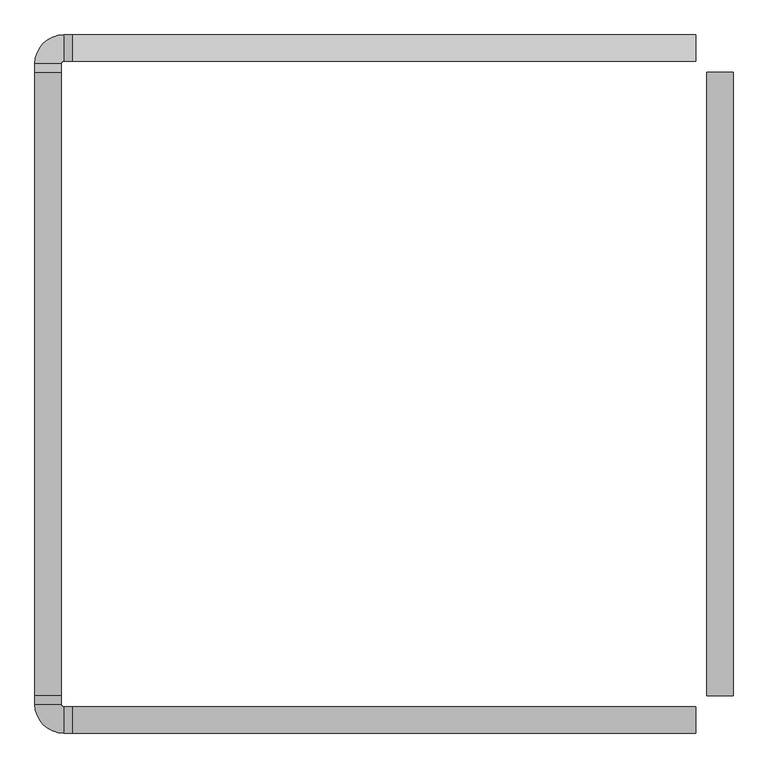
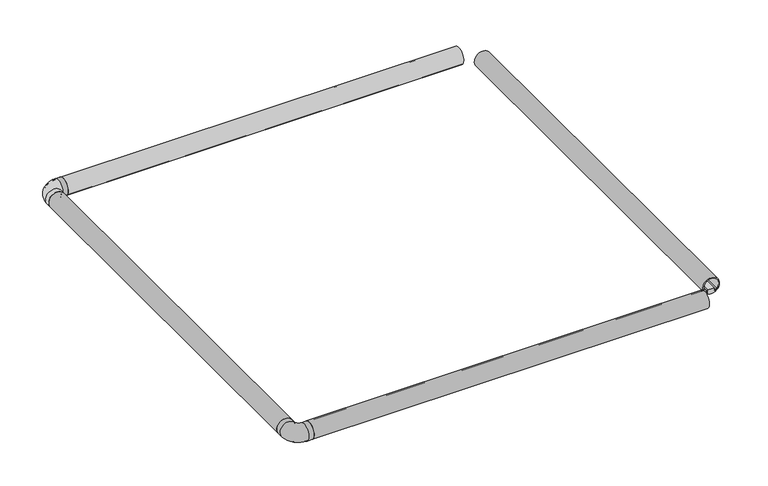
"""IFC4 building model written with IfcOpenShell, lengths in millimetres: light fixture geometry."""

from ifc_helpers import new_model, si_unit, point, frame, frame_2d, origin, place, context, project, spatial, polyline, circle_curve, ellipse_curve, trimmed, segment, composite_curve, outline, extrude, source, transform, mapped, element, save
from ifc_brep_helpers import plane_surface, cylinder_surface, revolved_surface, advanced_brep


def light_fixture_1890d13e(model_context):
    return source(origin(), model_context, "Body", "SolidModel", [
        advanced_brep(
        [(36.75, -69.5, 52.9333396), (36.75, -69.5, 57.259212), (38.667754, -69.5, 57.259212), (38.667754, -69.5, 55.8288843), (40.617754, -69.5, 57.2440748), (40.617754, -69.5, 59.244074), (37.667754, -69.5, 59.244074), (37.667754, -69.5, 60.744074), (42.2779794, -69.5, 60.744074), (7.7220206, -69.5, 60.744074), (12.332246, -69.5, 60.744074), (12.332246, -69.5, 59.244074), (9.382246, -69.5, 59.244074), (9.382246, -69.5, 57.2440748), (11.332246, -69.5, 55.8288843), (11.332246, -69.5, 57.259212), (13.25, -69.5, 57.259212), (13.25, -69.5, 52.9333396), (70.5, -103.25, 52.9333396), (70.5, -126.75, 52.9333396), (70.5, -126.75, 57.259212), (70.5, -128.667754, 57.259212), (70.5, -128.667754, 55.8288843), (70.5, -130.617754, 57.2440748), (70.5, -130.617754, 59.244074), (70.5, -127.667754, 59.244074), (70.5, -127.667754, 60.744074), (70.5, -132.2779794, 60.744074), (70.5, -97.7220206, 60.744074), (70.5, -102.332246, 60.744074), (70.5, -102.332246, 59.244074), (70.5, -99.382246, 59.244074), (70.5, -99.382246, 57.2440748), (70.5, -101.332246, 55.8288843), (70.5, -101.332246, 57.259212), (70.5, -103.25, 57.259212), (13.25, -85.0, 52.9333396), (36.75, -85.0, 52.9333396), (13.25, -85.0, 57.259212), (11.332246, -85.0, 57.259212), (55.0, -128.667754, 57.259212), (55.0, -126.75, 57.259212), (11.332246, -85.0, 55.8288843), (9.382246, -85.0, 57.2440748), (9.382246, -85.0, 59.244074), (12.332246, -85.0, 59.244074), (55.0, -127.667754, 59.244074), (55.0, -130.617754, 59.244074), (12.332246, -85.0, 60.744074), (7.7220206, -85.0, 60.744074), (55.0, -132.2779794, 60.744074), (55.0, -127.667754, 60.744074), (42.2779794, -85.0, 60.744074), (37.667754, -85.0, 60.744074), (55.0, -102.332246, 60.744074), (55.0, -97.7220206, 60.744074), (37.667754, -85.0, 59.244074), (40.617754, -85.0, 59.244074), (55.0, -99.382246, 59.244074), (55.0, -102.332246, 59.244074), (40.617754, -85.0, 57.2440748), (38.667754, -85.0, 55.8288843), (38.667754, -85.0, 57.259212), (36.75, -85.0, 57.259212), (55.0, -103.25, 57.259212), (55.0, -101.332246, 57.259212), (55.0, -103.25, 52.9333396), (55.0, -126.75, 52.9333396), (55.0, -128.667754, 55.8288843), (55.0, -130.617754, 57.2440748), (55.0, -99.382246, 57.2440748), (55.0, -101.332246, 55.8288843)],
        [
            (0, 1),
            (1, 2),
            (2, 3),
            (3, 4),
            (4, 5),
            (5, 6),
            (6, 7),
            (7, 8),
            (8, 9, circle_curve(frame((25.0, -69.5, 75.0), z_axis=(0.0, -1.0, 0.0), x_axis=(1.0, 0.0, 0.0)), 22.4)),
            (9, 10),
            (10, 11),
            (11, 12),
            (12, 13),
            (13, 14),
            (14, 15),
            (15, 16),
            (16, 17),
            (17, 0, circle_curve(frame((25.0, -69.5, 75.0), z_axis=(0.0, 1.0, 0.0), x_axis=(1.0, 0.0, 0.0)), 25.0)),
            (18, 19, circle_curve(frame((70.5, -115.0, 75.0), z_axis=(1.0, 0.0, 0.0), x_axis=(0.0, 1.0, 0.0)), 25.0)),
            (19, 20),
            (20, 21),
            (21, 22),
            (22, 23),
            (23, 24),
            (24, 25),
            (25, 26),
            (26, 27),
            (27, 28, circle_curve(frame((70.5, -115.0, 75.0), z_axis=(-1.0, 0.0, 0.0), x_axis=(0.0, 1.0, 0.0)), 22.4)),
            (28, 29),
            (29, 30),
            (30, 31),
            (31, 32),
            (32, 33),
            (33, 34),
            (34, 35),
            (35, 18),
            (17, 36),
            (36, 37, circle_curve(frame((25.0, -85.0, 75.0), z_axis=(0.0, 1.0, 0.0), x_axis=(1.0, 0.0, 0.0)), 25.0)),
            (37, 0),
            (16, 38),
            (38, 36),
            (15, 39),
            (39, 40, circle_curve(frame((55.0, -85.0, 57.259212), z_axis=(0.0, 0.0, 1.0), x_axis=(-1.0, 0.0, 0.0)), 43.667754)),
            (40, 21),
            (20, 41),
            (41, 38, circle_curve(frame((55.0, -85.0, 57.259212), z_axis=(0.0, 0.0, -1.0), x_axis=(-1.0, 0.0, 0.0)), 41.75)),
            (14, 42),
            (42, 39),
            (13, 43),
            (43, 42),
            (12, 44),
            (44, 43),
            (11, 45),
            (45, 46, circle_curve(frame((55.0, -85.0, 59.244074), z_axis=(0.0, 0.0, 1.0), x_axis=(-1.0, 0.0, 0.0)), 42.667754)),
            (46, 25),
            (24, 47),
            (47, 44, circle_curve(frame((55.0, -85.0, 59.244074), z_axis=(0.0, 0.0, -1.0), x_axis=(-1.0, 0.0, 0.0)), 45.617754)),
            (10, 48),
            (48, 45),
            (9, 49),
            (49, 50, circle_curve(frame((55.0, -85.0, 60.744074), z_axis=(0.0, 0.0, 1.0), x_axis=(-1.0, 0.0, 0.0)), 47.2779794)),
            (50, 27),
            (26, 51),
            (51, 48, circle_curve(frame((55.0, -85.0, 60.744074), z_axis=(0.0, 0.0, -1.0), x_axis=(-1.0, 0.0, 0.0)), 42.667754)),
            (8, 52),
            (52, 49, circle_curve(frame((25.0, -85.0, 75.0), z_axis=(0.0, -1.0, 0.0), x_axis=(1.0, 0.0, 0.0)), 22.4)),
            (7, 53),
            (53, 54, circle_curve(frame((55.0, -85.0, 60.744074), z_axis=(0.0, 0.0, 1.0), x_axis=(-1.0, 0.0, 0.0)), 17.332246)),
            (54, 29),
            (28, 55),
            (55, 52, circle_curve(frame((55.0, -85.0, 60.744074), z_axis=(0.0, 0.0, -1.0), x_axis=(-1.0, 0.0, 0.0)), 12.7220206)),
            (6, 56),
            (56, 53),
            (5, 57),
            (57, 58, circle_curve(frame((55.0, -85.0, 59.244074), z_axis=(0.0, 0.0, 1.0), x_axis=(-1.0, 0.0, 0.0)), 14.382246)),
            (58, 31),
            (30, 59),
            (59, 56, circle_curve(frame((55.0, -85.0, 59.244074), z_axis=(0.0, 0.0, -1.0), x_axis=(-1.0, 0.0, 0.0)), 17.332246)),
            (4, 60),
            (60, 57),
            (3, 61),
            (61, 60),
            (2, 62),
            (62, 61),
            (1, 63),
            (63, 64, circle_curve(frame((55.0, -85.0, 57.259212), z_axis=(0.0, 0.0, 1.0), x_axis=(-1.0, 0.0, 0.0)), 18.25)),
            (64, 35),
            (34, 65),
            (65, 62, circle_curve(frame((55.0, -85.0, 57.259212), z_axis=(0.0, 0.0, -1.0), x_axis=(-1.0, 0.0, 0.0)), 16.332246)),
            (37, 63),
            (66, 37, circle_curve(frame((55.0, -85.0, 52.9333396), z_axis=(0.0, 0.0, -1.0), x_axis=(-1.0, 0.0, 0.0)), 18.25)),
            (36, 67, circle_curve(frame((55.0, -85.0, 52.9333396), z_axis=(0.0, 0.0, 1.0), x_axis=(-1.0, 0.0, 0.0)), 41.75)),
            (67, 66, circle_curve(frame((55.0, -115.0, 75.0), z_axis=(-1.0, 0.0, 0.0), x_axis=(0.0, 1.0, 0.0)), 25.0)),
            (41, 67),
            (42, 68, circle_curve(frame((55.0, -85.0, 55.8288843), z_axis=(0.0, 0.0, 1.0), x_axis=(-1.0, 0.0, 0.0)), 43.667754)),
            (68, 40),
            (43, 69, circle_curve(frame((55.0, -85.0, 57.2440748), z_axis=(0.0, 0.0, 1.0), x_axis=(-1.0, 0.0, 0.0)), 45.617754)),
            (69, 68),
            (47, 69),
            (51, 46),
            (55, 50, circle_curve(frame((55.0, -115.0, 75.0), z_axis=(1.0, 0.0, 0.0), x_axis=(0.0, 1.0, 0.0)), 22.4)),
            (59, 54),
            (60, 70, circle_curve(frame((55.0, -85.0, 57.2440748), z_axis=(0.0, 0.0, 1.0), x_axis=(-1.0, 0.0, 0.0)), 14.382246)),
            (70, 58),
            (61, 71, circle_curve(frame((55.0, -85.0, 55.8288843), z_axis=(0.0, 0.0, 1.0), x_axis=(-1.0, 0.0, 0.0)), 16.332246)),
            (71, 70),
            (65, 71),
            (66, 64),
            (67, 19),
            (18, 66),
            (68, 22),
            (69, 23),
            (70, 32),
            (71, 33),
        ],
        [
            plane_surface(frame((25.0, -69.5, 50.0), z_axis=(0.0, 1.0, 0.0), x_axis=(0.0, 0.0, 1.0))),
            plane_surface(frame((70.5, -115.0, 50.0), z_axis=(1.0, 0.0, 0.0), x_axis=(0.0, 0.0, 1.0))),
            cylinder_surface(frame((25.0, -69.5, 75.0), z_axis=(0.0, 1.0, 0.0), x_axis=(1.0, 0.0, 0.0)), 25.0),
            plane_surface(frame((13.25, -69.5, 57.259212), z_axis=(1.0, 0.0, 0.0), x_axis=(0.0, -1.0, 0.0))),
            plane_surface(frame((11.332246, -69.5, 57.259212), z_axis=(0.0, 0.0, 1.0), x_axis=(0.0, -1.0, 0.0))),
            plane_surface(frame((11.332246, -69.5, 55.8288843), z_axis=(-1.0, 0.0, 0.0), x_axis=(0.0, -1.0, 0.0))),
            plane_surface(frame((9.382246, -69.5, 57.2440748), z_axis=(0.5873593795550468, 0.0, 0.8093262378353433), x_axis=(0.0, -1.0, 0.0))),
            plane_surface(frame((9.382246, -69.5, 59.244074), z_axis=(1.0, 0.0, 0.0), x_axis=(0.0, -1.0, 0.0))),
            plane_surface(frame((12.332246, -69.5, 59.244074), z_axis=(0.0, 0.0, -1.0), x_axis=(0.0, -1.0, 0.0))),
            plane_surface(frame((12.332246, -69.5, 60.744074), z_axis=(1.0, 0.0, 0.0), x_axis=(0.0, -1.0, 0.0))),
            plane_surface(frame((7.7220206, -69.5, 60.744074), z_axis=(0.0, 0.0, 1.0), x_axis=(0.0, -1.0, 0.0))),
            revolved_surface(polyline([(47.4, -85.0, 75.0), (47.4, -69.5, 75.0)]), (25.0, -69.5, 75.0), (0.0, -1.0, 0.0)),
            plane_surface(frame((37.667754, -69.5, 60.744074), z_axis=(0.0, 0.0, 1.0), x_axis=(0.0, -1.0, 0.0))),
            plane_surface(frame((37.667754, -69.5, 59.244074), z_axis=(-1.0, 0.0, 0.0), x_axis=(0.0, -1.0, 0.0))),
            plane_surface(frame((40.617754, -69.5, 59.244074), z_axis=(0.0, 0.0, -1.0), x_axis=(0.0, -1.0, 0.0))),
            plane_surface(frame((40.617754, -69.5, 57.2440748), z_axis=(-1.0, 0.0, 0.0), x_axis=(0.0, -1.0, 0.0))),
            plane_surface(frame((38.667754, -69.5, 55.8288843), z_axis=(-0.5873593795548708, 0.0, 0.8093262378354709), x_axis=(0.0, -1.0, 0.0))),
            plane_surface(frame((38.667754, -69.5, 57.259212), z_axis=(1.0, 0.0, 0.0), x_axis=(0.0, -1.0, 0.0))),
            plane_surface(frame((36.75, -69.5, 57.259212), z_axis=(0.0, 0.0, 1.0), x_axis=(0.0, -1.0, 0.0))),
            plane_surface(frame((36.75, -69.5, 52.9333396), z_axis=(-1.0, 0.0, 0.0), x_axis=(0.0, -1.0, 0.0))),
            revolved_surface(trimmed(ellipse_curve(frame((25.0, -85.0, 75.0), z_axis=(0.0, 1.0, 0.0), x_axis=(1.0, 0.0, 0.0)), 25.0, 25.0), [point((13.25, -85.0, 52.9333396))], [point((36.75, -85.0, 52.9333396))], True, "CARTESIAN"), (55.0, -85.0, 50.0), (0.0, 0.0, 1.0)),
            revolved_surface(polyline([(13.25, -85.0, 57.259212), (13.25, -85.0, 52.9333396)]), (55.0, -85.0, 50.0), (0.0, 0.0, 1.0)),
            cylinder_surface(frame((55.0, -85.0, 50.0), z_axis=(0.0, 0.0, 1.0), x_axis=(-1.0, 0.0, 0.0)), 43.667754),
            revolved_surface(polyline([(9.382246, -85.0, 57.2440748), (11.332246, -85.0, 55.8288843)]), (55.0, -85.0, 50.0), (0.0, 0.0, 1.0)),
            revolved_surface(polyline([(9.382246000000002, -85.0, 59.244074), (9.382246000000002, -85.0, 57.2440748)]), (55.0, -85.0, 50.0), (0.0, 0.0, 1.0)),
            revolved_surface(polyline([(12.332245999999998, -85.0, 60.744074), (12.332245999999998, -85.0, 59.244074)]), (55.0, -85.0, 50.0), (0.0, 0.0, 1.0)),
            revolved_surface(trimmed(ellipse_curve(frame((25.0, -85.0, 75.0), z_axis=(0.0, -1.0, 0.0), x_axis=(1.0, 0.0, 0.0)), 22.4, 22.4), [point((42.2779794, -85.0, 60.744074))], [point((7.7220206, -85.0, 60.744074))], True, "CARTESIAN"), (55.0, -85.0, 50.0), (0.0, 0.0, 1.0)),
            cylinder_surface(frame((55.0, -85.0, 50.0), z_axis=(0.0, 0.0, 1.0), x_axis=(-1.0, 0.0, 0.0)), 17.332246),
            cylinder_surface(frame((55.0, -85.0, 50.0), z_axis=(0.0, 0.0, 1.0), x_axis=(-1.0, 0.0, 0.0)), 14.382246),
            revolved_surface(polyline([(38.667754, -85.0, 55.8288843), (40.617754, -85.0, 57.2440748)]), (55.0, -85.0, 50.0), (0.0, 0.0, 1.0)),
            revolved_surface(polyline([(38.667754, -85.0, 57.259212), (38.667754, -85.0, 55.8288843)]), (55.0, -85.0, 50.0), (0.0, 0.0, 1.0)),
            cylinder_surface(frame((55.0, -85.0, 50.0), z_axis=(0.0, 0.0, 1.0), x_axis=(-1.0, 0.0, 0.0)), 18.25),
            cylinder_surface(frame((55.0, -115.0, 75.0), z_axis=(-1.0, 0.0, 0.0), x_axis=(0.0, 1.0, 0.0)), 25.0),
            plane_surface(frame((55.0, -126.75, 57.259212), z_axis=(0.0, 1.0, 0.0), x_axis=(1.0, 0.0, 0.0))),
            plane_surface(frame((55.0, -128.667754, 55.8288843), z_axis=(0.0, -1.0, 0.0), x_axis=(1.0, 0.0, 0.0))),
            plane_surface(frame((55.0, -130.617754, 57.2440748), z_axis=(0.0, 0.5873593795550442, 0.8093262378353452), x_axis=(1.0, 0.0, 0.0))),
            plane_surface(frame((55.0, -130.617754, 59.244074), z_axis=(0.0, 1.0, 0.0), x_axis=(1.0, 0.0, 0.0))),
            plane_surface(frame((55.0, -127.667754, 60.744074), z_axis=(0.0, 1.0, 0.0), x_axis=(1.0, 0.0, 0.0))),
            revolved_surface(polyline([(70.5, -92.6, 75.0), (55.0, -92.6, 75.0)]), (55.0, -115.0, 75.0), (1.0, 0.0, 0.0)),
            plane_surface(frame((55.0, -102.332246, 59.244074), z_axis=(0.0, -1.0, 0.0), x_axis=(1.0, 0.0, 0.0))),
            plane_surface(frame((55.0, -99.382246, 57.2440748), z_axis=(0.0, -1.0, 0.0), x_axis=(1.0, 0.0, 0.0))),
            plane_surface(frame((55.0, -101.332246, 55.8288843), z_axis=(0.0, -0.5873593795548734, 0.809326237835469), x_axis=(1.0, 0.0, 0.0))),
            plane_surface(frame((55.0, -101.332246, 57.259212), z_axis=(0.0, 1.0, 0.0), x_axis=(1.0, 0.0, 0.0))),
            plane_surface(frame((55.0, -103.25, 52.9333396), z_axis=(0.0, -1.0, 0.0), x_axis=(1.0, 0.0, 0.0))),
        ],
        [
            (0, [[1, 2, 3, 4, 5, 6, 7, 8, 9, 10, 11, 12, 13, 14, 15, 16, 17, 18]]),
            (1, [[19, 20, 21, 22, 23, 24, 25, 26, 27, 28, 29, 30, 31, 32, 33, 34, 35, 36]]),
            (2, [[-18, 37, 38, 39]]),
            (3, [[-17, 40, 41, -37]]),
            (4, [[-16, 42, 43, 44, -21, 45, 46, -40]]),
            (5, [[-15, 47, 48, -42]]),
            (6, [[-14, 49, 50, -47]]),
            (7, [[-13, 51, 52, -49]]),
            (8, [[-12, 53, 54, 55, -25, 56, 57, -51]]),
            (9, [[-11, 58, 59, -53]]),
            (10, [[-10, 60, 61, 62, -27, 63, 64, -58]]),
            (11, [[-9, 65, 66, -60]]),
            (12, [[-8, 67, 68, 69, -29, 70, 71, -65]]),
            (13, [[-7, 72, 73, -67]]),
            (14, [[-6, 74, 75, 76, -31, 77, 78, -72]]),
            (15, [[-5, 79, 80, -74]]),
            (16, [[-4, 81, 82, -79]]),
            (17, [[-3, 83, 84, -81]]),
            (18, [[-2, 85, 86, 87, -35, 88, 89, -83]]),
            (19, [[-1, -39, 90, -85]]),
            (20, [[91, -38, 92, 93]]),
            (21, [[-92, -41, -46, 94]]),
            (22, [[-43, -48, 95, 96]]),
            (23, [[-95, -50, 97, 98]]),
            (24, [[-97, -52, -57, 99]]),
            (25, [[-54, -59, -64, 100]]),
            (26, [[-61, -66, -71, 101]]),
            (27, [[-68, -73, -78, 102]]),
            (28, [[-75, -80, 103, 104]]),
            (29, [[-103, -82, 105, 106]]),
            (30, [[-105, -84, -89, 107]]),
            (31, [[-86, -90, -91, 108]]),
            (32, [[-93, 109, -19, 110]]),
            (33, [[-94, -45, -20, -109]]),
            (34, [[-96, 111, -22, -44]]),
            (35, [[-98, 112, -23, -111]]),
            (36, [[-99, -56, -24, -112]]),
            (37, [[-100, -63, -26, -55]]),
            (38, [[-101, -70, -28, -62]]),
            (39, [[-102, -77, -30, -69]]),
            (40, [[-104, 113, -32, -76]]),
            (41, [[-106, 114, -33, -113]]),
            (42, [[-107, -88, -34, -114]]),
            (43, [[-108, -110, -36, -87]]),
        ],
    ),
        advanced_brep(
        [(13.25, 1110.5, 52.9333396), (36.75, 1110.5, 52.9333396), (36.75, 1110.5, 57.259212), (40.304087, 1110.5, 57.259212), (40.304087, 1110.5, 58.785971), (34.5062575, 1110.5, 58.785971), (34.5062575, 1110.5, 64.4273482), (15.4937425, 1110.5, 64.4273482), (15.4937425, 1110.5, 58.785971), (9.695913, 1110.5, 58.785971), (9.695913, 1110.5, 57.259212), (13.25, 1110.5, 57.259212), (70.5, 1167.75, 52.9333396), (70.5, 1167.75, 57.259212), (70.5, 1171.304087, 57.259212), (70.5, 1171.304087, 58.785971), (70.5, 1165.5062575, 58.785971), (70.5, 1165.5062575, 64.4273482), (70.5, 1146.4937425, 64.4273482), (70.5, 1146.4937425, 58.785971), (70.5, 1140.695913, 58.785971), (70.5, 1140.695913, 57.259212), (70.5, 1144.25, 57.259212), (70.5, 1144.25, 52.9333396), (13.25, 1126.0, 52.9333396), (36.75, 1126.0, 52.9333396), (36.75, 1126.0, 57.259212), (55.0, 1144.25, 57.259212), (55.0, 1140.695913, 57.259212), (40.304087, 1126.0, 57.259212), (40.304087, 1126.0, 58.785971), (55.0, 1140.695913, 58.785971), (55.0, 1146.4937425, 58.785971), (34.5062575, 1126.0, 58.785971), (34.5062575, 1126.0, 64.4273482), (55.0, 1146.4937425, 64.4273482), (55.0, 1165.5062575, 64.4273482), (15.4937425, 1126.0, 64.4273482), (15.4937425, 1126.0, 58.785971), (55.0, 1165.5062575, 58.785971), (55.0, 1171.304087, 58.785971), (9.695913, 1126.0, 58.785971), (9.695913, 1126.0, 57.259212), (55.0, 1171.304087, 57.259212), (55.0, 1167.75, 57.259212), (13.25, 1126.0, 57.259212), (55.0, 1144.25, 52.9333396), (55.0, 1167.75, 52.9333396)],
        [
            (0, 1, circle_curve(frame((25.0, 1110.5, 75.0), z_axis=(0.0, -1.0, 0.0), x_axis=(-1.0, 0.0, 0.0)), 25.0)),
            (1, 2),
            (2, 3),
            (3, 4),
            (4, 5),
            (5, 6),
            (6, 7),
            (7, 8),
            (8, 9),
            (9, 10),
            (10, 11),
            (11, 0),
            (12, 13),
            (13, 14),
            (14, 15),
            (15, 16),
            (16, 17),
            (17, 18),
            (18, 19),
            (19, 20),
            (20, 21),
            (21, 22),
            (22, 23),
            (23, 12, circle_curve(frame((70.5, 1156.0, 75.0), z_axis=(1.0, 0.0, 0.0), x_axis=(0.0, 1.0, 0.0)), 25.0)),
            (0, 24),
            (24, 25, circle_curve(frame((25.0, 1126.0, 75.0), z_axis=(0.0, -1.0, 0.0), x_axis=(-1.0, 0.0, 0.0)), 25.0)),
            (25, 1),
            (25, 26),
            (26, 2),
            (26, 27, circle_curve(frame((55.0, 1126.0, 57.259212), z_axis=(0.0, 0.0, -1.0), x_axis=(-1.0, 0.0, 0.0)), 18.25)),
            (27, 22),
            (21, 28),
            (28, 29, circle_curve(frame((55.0, 1126.0, 57.259212), z_axis=(0.0, 0.0, 1.0), x_axis=(-1.0, 0.0, 0.0)), 14.695913)),
            (29, 3),
            (29, 30),
            (30, 4),
            (30, 31, circle_curve(frame((55.0, 1126.0, 58.785971), z_axis=(0.0, 0.0, -1.0), x_axis=(-1.0, 0.0, 0.0)), 14.695913)),
            (31, 20),
            (19, 32),
            (32, 33, circle_curve(frame((55.0, 1126.0, 58.785971), z_axis=(0.0, 0.0, 1.0), x_axis=(-1.0, 0.0, 0.0)), 20.4937425)),
            (33, 5),
            (33, 34),
            (34, 6),
            (34, 35, circle_curve(frame((55.0, 1126.0, 64.4273482), z_axis=(0.0, 0.0, -1.0), x_axis=(-1.0, 0.0, 0.0)), 20.4937425)),
            (35, 18),
            (17, 36),
            (36, 37, circle_curve(frame((55.0, 1126.0, 64.4273482), z_axis=(0.0, 0.0, 1.0), x_axis=(-1.0, 0.0, 0.0)), 39.5062575)),
            (37, 7),
            (37, 38),
            (38, 8),
            (38, 39, circle_curve(frame((55.0, 1126.0, 58.785971), z_axis=(0.0, 0.0, -1.0), x_axis=(-1.0, 0.0, 0.0)), 39.5062575)),
            (39, 16),
            (15, 40),
            (40, 41, circle_curve(frame((55.0, 1126.0, 58.785971), z_axis=(0.0, 0.0, 1.0), x_axis=(-1.0, 0.0, 0.0)), 45.304087)),
            (41, 9),
            (41, 42),
            (42, 10),
            (42, 43, circle_curve(frame((55.0, 1126.0, 57.259212), z_axis=(0.0, 0.0, -1.0), x_axis=(-1.0, 0.0, 0.0)), 45.304087)),
            (43, 14),
            (13, 44),
            (44, 45, circle_curve(frame((55.0, 1126.0, 57.259212), z_axis=(0.0, 0.0, 1.0), x_axis=(-1.0, 0.0, 0.0)), 41.75)),
            (45, 11),
            (45, 24),
            (46, 25, circle_curve(frame((55.0, 1126.0, 52.9333396), z_axis=(0.0, 0.0, 1.0), x_axis=(-1.0, 0.0, 0.0)), 18.25)),
            (24, 47, circle_curve(frame((55.0, 1126.0, 52.9333396), z_axis=(0.0, 0.0, -1.0), x_axis=(-1.0, 0.0, 0.0)), 41.75)),
            (47, 46, circle_curve(frame((55.0, 1156.0, 75.0), z_axis=(-1.0, 0.0, 0.0), x_axis=(0.0, 1.0, 0.0)), 25.0)),
            (46, 27),
            (28, 31),
            (32, 35),
            (36, 39),
            (40, 43),
            (44, 47),
            (47, 12),
            (23, 46),
        ],
        [
            plane_surface(frame((25.0, 1110.5, 50.0), z_axis=(0.0, -1.0, 0.0), x_axis=(0.0, 0.0, 1.0))),
            plane_surface(frame((70.5, 1156.0, 50.0), z_axis=(1.0, 0.0, 0.0), x_axis=(0.0, 0.0, 1.0))),
            cylinder_surface(frame((25.0, 1110.5, 75.0), z_axis=(0.0, -1.0, 0.0), x_axis=(-1.0, 0.0, 0.0)), 25.0),
            plane_surface(frame((36.75, 1110.5, 52.9333396), z_axis=(1.0, 0.0, 0.0), x_axis=(0.0, 1.0, 0.0))),
            plane_surface(frame((36.75, 1110.5, 57.259212), z_axis=(0.0, 0.0, -1.0), x_axis=(0.0, 1.0, 0.0))),
            plane_surface(frame((40.304087, 1110.5, 57.259212), z_axis=(1.0, 0.0, 0.0), x_axis=(0.0, 1.0, 0.0))),
            plane_surface(frame((40.304087, 1110.5, 58.785971), z_axis=(0.0, 0.0, 1.0), x_axis=(0.0, 1.0, 0.0))),
            plane_surface(frame((34.5062575, 1110.5, 58.785971), z_axis=(1.0, 0.0, 0.0), x_axis=(0.0, 1.0, 0.0))),
            plane_surface(frame((34.5062575, 1110.5, 64.4273482), z_axis=(0.0, 0.0, 1.0), x_axis=(0.0, 1.0, 0.0))),
            plane_surface(frame((15.4937425, 1110.5, 64.4273482), z_axis=(-1.0, 0.0, 0.0), x_axis=(0.0, 1.0, 0.0))),
            plane_surface(frame((15.4937425, 1110.5, 58.785971), z_axis=(0.0, 0.0, 1.0), x_axis=(0.0, 1.0, 0.0))),
            plane_surface(frame((9.695913, 1110.5, 58.785971), z_axis=(-1.0, 0.0, 0.0), x_axis=(0.0, 1.0, 0.0))),
            plane_surface(frame((9.695913, 1110.5, 57.259212), z_axis=(0.0, 0.0, -1.0), x_axis=(0.0, 1.0, 0.0))),
            plane_surface(frame((13.25, 1110.5, 57.259212), z_axis=(-1.0, 0.0, 0.0), x_axis=(0.0, 1.0, 0.0))),
            revolved_surface(trimmed(ellipse_curve(frame((25.0, 1126.0, 75.0), z_axis=(0.0, -1.0, 0.0), x_axis=(-1.0, 0.0, 0.0)), 25.0, 25.0), [point((13.25, 1126.0, 52.9333396))], [point((36.75, 1126.0, 52.9333396))], True, "CARTESIAN"), (55.0, 1126.0, 50.0), (0.0, 0.0, -1.0)),
            revolved_surface(polyline([(36.75, 1126.0, 52.9333396), (36.75, 1126.0, 57.259212)]), (55.0, 1126.0, 50.0), (0.0, 0.0, -1.0)),
            revolved_surface(polyline([(40.304087, 1126.0, 57.259212), (40.304087, 1126.0, 58.785971)]), (55.0, 1126.0, 50.0), (0.0, 0.0, -1.0)),
            revolved_surface(polyline([(34.506257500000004, 1126.0, 58.785971), (34.506257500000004, 1126.0, 64.4273482)]), (55.0, 1126.0, 50.0), (0.0, 0.0, -1.0)),
            cylinder_surface(frame((55.0, 1126.0, 50.0), z_axis=(0.0, 0.0, -1.0), x_axis=(-1.0, 0.0, 0.0)), 39.5062575),
            cylinder_surface(frame((55.0, 1126.0, 50.0), z_axis=(0.0, 0.0, -1.0), x_axis=(-1.0, 0.0, 0.0)), 45.304087),
            cylinder_surface(frame((55.0, 1126.0, 50.0), z_axis=(0.0, 0.0, -1.0), x_axis=(-1.0, 0.0, 0.0)), 41.75),
            cylinder_surface(frame((55.0, 1156.0, 75.0), z_axis=(-1.0, 0.0, 0.0), x_axis=(0.0, 1.0, 0.0)), 25.0),
            plane_surface(frame((55.0, 1144.25, 52.9333396), z_axis=(0.0, -1.0, 0.0), x_axis=(1.0, 0.0, 0.0))),
            plane_surface(frame((55.0, 1140.695913, 57.259212), z_axis=(0.0, -1.0, 0.0), x_axis=(1.0, 0.0, 0.0))),
            plane_surface(frame((55.0, 1146.4937425, 58.785971), z_axis=(0.0, -1.0, 0.0), x_axis=(1.0, 0.0, 0.0))),
            plane_surface(frame((55.0, 1165.5062575, 64.4273482), z_axis=(0.0, 1.0, 0.0), x_axis=(1.0, 0.0, 0.0))),
            plane_surface(frame((55.0, 1171.304087, 58.785971), z_axis=(0.0, 1.0, 0.0), x_axis=(1.0, 0.0, 0.0))),
            plane_surface(frame((55.0, 1167.75, 57.259212), z_axis=(0.0, 1.0, 0.0), x_axis=(1.0, 0.0, 0.0))),
        ],
        [
            (0, [[1, 2, 3, 4, 5, 6, 7, 8, 9, 10, 11, 12]]),
            (1, [[13, 14, 15, 16, 17, 18, 19, 20, 21, 22, 23, 24]]),
            (2, [[-1, 25, 26, 27]]),
            (3, [[-2, -27, 28, 29]]),
            (4, [[-3, -29, 30, 31, -22, 32, 33, 34]]),
            (5, [[-4, -34, 35, 36]]),
            (6, [[-5, -36, 37, 38, -20, 39, 40, 41]]),
            (7, [[-6, -41, 42, 43]]),
            (8, [[-7, -43, 44, 45, -18, 46, 47, 48]]),
            (9, [[-8, -48, 49, 50]]),
            (10, [[-9, -50, 51, 52, -16, 53, 54, 55]]),
            (11, [[-10, -55, 56, 57]]),
            (12, [[-11, -57, 58, 59, -14, 60, 61, 62]]),
            (13, [[-12, -62, 63, -25]]),
            (14, [[64, -26, 65, 66]]),
            (15, [[-30, -28, -64, 67]]),
            (16, [[-37, -35, -33, 68]]),
            (17, [[-44, -42, -40, 69]]),
            (18, [[-51, -49, -47, 70]]),
            (19, [[-58, -56, -54, 71]]),
            (20, [[-65, -63, -61, 72]]),
            (21, [[-66, 73, -24, 74]]),
            (22, [[-67, -74, -23, -31]]),
            (23, [[-68, -32, -21, -38]]),
            (24, [[-69, -39, -19, -45]]),
            (25, [[-70, -46, -17, -52]]),
            (26, [[-71, -53, -15, -59]]),
            (27, [[-72, -60, -13, -73]]),
        ],
    ),
        advanced_brep(
        [(36.75, 1110.5, 52.9333396), (13.25, 1110.5, 52.9333396), (13.25, 1110.5, 57.259212), (11.332246, 1110.5, 57.259212), (11.332246, 1110.5, 55.8288843), (9.382246, 1110.5, 57.2440748), (9.382246, 1110.5, 59.244074), (12.332246, 1110.5, 59.244074), (12.332246, 1110.5, 60.744074), (7.7220206, 1110.5, 60.744074), (42.2779794, 1110.5, 60.744074), (37.667754, 1110.5, 60.744074), (37.667754, 1110.5, 59.244074), (40.617754, 1110.5, 59.244074), (40.617754, 1110.5, 57.2440748), (38.667754, 1110.5, 55.8288843), (38.667754, 1110.5, 57.259212), (36.75, 1110.5, 57.259212), (70.5, 1144.25, 52.9333396), (70.5, 1144.25, 57.259212), (70.5, 1142.332246, 57.259212), (70.5, 1142.332246, 55.8288843), (70.5, 1140.382246, 57.2440748), (70.5, 1140.382246, 59.244074), (70.5, 1143.332246, 59.244074), (70.5, 1143.332246, 60.744074), (70.5, 1138.7220206, 60.744074), (70.5, 1173.2779794, 60.744074), (70.5, 1168.667754, 60.744074), (70.5, 1168.667754, 59.244074), (70.5, 1171.617754, 59.244074), (70.5, 1171.617754, 57.2440748), (70.5, 1169.667754, 55.8288843), (70.5, 1169.667754, 57.259212), (70.5, 1167.75, 57.259212), (70.5, 1167.75, 52.9333396), (36.75, 1126.0, 52.9333396), (13.25, 1126.0, 52.9333396), (13.25, 1126.0, 57.259212), (55.0, 1167.75, 57.259212), (55.0, 1169.667754, 57.259212), (11.332246, 1126.0, 57.259212), (11.332246, 1126.0, 55.8288843), (9.382246, 1126.0, 57.2440748), (9.382246, 1126.0, 59.244074), (55.0, 1171.617754, 59.244074), (55.0, 1168.667754, 59.244074), (12.332246, 1126.0, 59.244074), (12.332246, 1126.0, 60.744074), (55.0, 1168.667754, 60.744074), (55.0, 1173.2779794, 60.744074), (7.7220206, 1126.0, 60.744074), (42.2779794, 1126.0, 60.744074), (55.0, 1138.7220206, 60.744074), (55.0, 1143.332246, 60.744074), (37.667754, 1126.0, 60.744074), (37.667754, 1126.0, 59.244074), (55.0, 1143.332246, 59.244074), (55.0, 1140.382246, 59.244074), (40.617754, 1126.0, 59.244074), (40.617754, 1126.0, 57.2440748), (38.667754, 1126.0, 55.8288843), (38.667754, 1126.0, 57.259212), (55.0, 1142.332246, 57.259212), (55.0, 1144.25, 57.259212), (36.75, 1126.0, 57.259212), (55.0, 1167.75, 52.9333396), (55.0, 1144.25, 52.9333396), (55.0, 1169.667754, 55.8288843), (55.0, 1171.617754, 57.2440748), (55.0, 1140.382246, 57.2440748), (55.0, 1142.332246, 55.8288843)],
        [
            (0, 1, circle_curve(frame((25.0, 1110.5, 75.0), z_axis=(0.0, -1.0, 0.0), x_axis=(-1.0, 0.0, 0.0)), 25.0)),
            (1, 2),
            (2, 3),
            (3, 4),
            (4, 5),
            (5, 6),
            (6, 7),
            (7, 8),
            (8, 9),
            (9, 10, circle_curve(frame((25.0, 1110.5, 75.0), z_axis=(0.0, 1.0, 0.0), x_axis=(-1.0, 0.0, 0.0)), 22.4)),
            (10, 11),
            (11, 12),
            (12, 13),
            (13, 14),
            (14, 15),
            (15, 16),
            (16, 17),
            (17, 0),
            (18, 19),
            (19, 20),
            (20, 21),
            (21, 22),
            (22, 23),
            (23, 24),
            (24, 25),
            (25, 26),
            (26, 27, circle_curve(frame((70.5, 1156.0, 75.0), z_axis=(-1.0, 0.0, 0.0), x_axis=(0.0, 1.0, 0.0)), 22.4)),
            (27, 28),
            (28, 29),
            (29, 30),
            (30, 31),
            (31, 32),
            (32, 33),
            (33, 34),
            (34, 35),
            (35, 18, circle_curve(frame((70.5, 1156.0, 75.0), z_axis=(1.0, 0.0, 0.0), x_axis=(0.0, 1.0, 0.0)), 25.0)),
            (0, 36),
            (36, 37, circle_curve(frame((25.0, 1126.0, 75.0), z_axis=(0.0, -1.0, 0.0), x_axis=(-1.0, 0.0, 0.0)), 25.0)),
            (37, 1),
            (37, 38),
            (38, 2),
            (38, 39, circle_curve(frame((55.0, 1126.0, 57.259212), z_axis=(0.0, 0.0, -1.0), x_axis=(-1.0, 0.0, 0.0)), 41.75)),
            (39, 34),
            (33, 40),
            (40, 41, circle_curve(frame((55.0, 1126.0, 57.259212), z_axis=(0.0, 0.0, 1.0), x_axis=(-1.0, 0.0, 0.0)), 43.667754)),
            (41, 3),
            (41, 42),
            (42, 4),
            (42, 43),
            (43, 5),
            (43, 44),
            (44, 6),
            (44, 45, circle_curve(frame((55.0, 1126.0, 59.244074), z_axis=(0.0, 0.0, -1.0), x_axis=(-1.0, 0.0, 0.0)), 45.617754)),
            (45, 30),
            (29, 46),
            (46, 47, circle_curve(frame((55.0, 1126.0, 59.244074), z_axis=(0.0, 0.0, 1.0), x_axis=(-1.0, 0.0, 0.0)), 42.667754)),
            (47, 7),
            (47, 48),
            (48, 8),
            (48, 49, circle_curve(frame((55.0, 1126.0, 60.744074), z_axis=(0.0, 0.0, -1.0), x_axis=(-1.0, 0.0, 0.0)), 42.667754)),
            (49, 28),
            (27, 50),
            (50, 51, circle_curve(frame((55.0, 1126.0, 60.744074), z_axis=(0.0, 0.0, 1.0), x_axis=(-1.0, 0.0, 0.0)), 47.2779794)),
            (51, 9),
            (51, 52, circle_curve(frame((25.0, 1126.0, 75.0), z_axis=(0.0, 1.0, 0.0), x_axis=(-1.0, 0.0, 0.0)), 22.4)),
            (52, 10),
            (52, 53, circle_curve(frame((55.0, 1126.0, 60.744074), z_axis=(0.0, 0.0, -1.0), x_axis=(-1.0, 0.0, 0.0)), 12.7220206)),
            (53, 26),
            (25, 54),
            (54, 55, circle_curve(frame((55.0, 1126.0, 60.744074), z_axis=(0.0, 0.0, 1.0), x_axis=(-1.0, 0.0, 0.0)), 17.332246)),
            (55, 11),
            (55, 56),
            (56, 12),
            (56, 57, circle_curve(frame((55.0, 1126.0, 59.244074), z_axis=(0.0, 0.0, -1.0), x_axis=(-1.0, 0.0, 0.0)), 17.332246)),
            (57, 24),
            (23, 58),
            (58, 59, circle_curve(frame((55.0, 1126.0, 59.244074), z_axis=(0.0, 0.0, 1.0), x_axis=(-1.0, 0.0, 0.0)), 14.382246)),
            (59, 13),
            (59, 60),
            (60, 14),
            (60, 61),
            (61, 15),
            (61, 62),
            (62, 16),
            (62, 63, circle_curve(frame((55.0, 1126.0, 57.259212), z_axis=(0.0, 0.0, -1.0), x_axis=(-1.0, 0.0, 0.0)), 16.332246)),
            (63, 20),
            (19, 64),
            (64, 65, circle_curve(frame((55.0, 1126.0, 57.259212), z_axis=(0.0, 0.0, 1.0), x_axis=(-1.0, 0.0, 0.0)), 18.25)),
            (65, 17),
            (65, 36),
            (66, 37, circle_curve(frame((55.0, 1126.0, 52.9333396), z_axis=(0.0, 0.0, 1.0), x_axis=(-1.0, 0.0, 0.0)), 41.75)),
            (36, 67, circle_curve(frame((55.0, 1126.0, 52.9333396), z_axis=(0.0, 0.0, -1.0), x_axis=(-1.0, 0.0, 0.0)), 18.25)),
            (67, 66, circle_curve(frame((55.0, 1156.0, 75.0), z_axis=(-1.0, 0.0, 0.0), x_axis=(0.0, 1.0, 0.0)), 25.0)),
            (66, 39),
            (68, 42, circle_curve(frame((55.0, 1126.0, 55.8288843), z_axis=(0.0, 0.0, 1.0), x_axis=(-1.0, 0.0, 0.0)), 43.667754)),
            (40, 68),
            (69, 43, circle_curve(frame((55.0, 1126.0, 57.2440748), z_axis=(0.0, 0.0, 1.0), x_axis=(-1.0, 0.0, 0.0)), 45.617754)),
            (68, 69),
            (69, 45),
            (46, 49),
            (50, 53, circle_curve(frame((55.0, 1156.0, 75.0), z_axis=(1.0, 0.0, 0.0), x_axis=(0.0, 1.0, 0.0)), 22.4)),
            (54, 57),
            (70, 60, circle_curve(frame((55.0, 1126.0, 57.2440748), z_axis=(0.0, 0.0, 1.0), x_axis=(-1.0, 0.0, 0.0)), 14.382246)),
            (58, 70),
            (71, 61, circle_curve(frame((55.0, 1126.0, 55.8288843), z_axis=(0.0, 0.0, 1.0), x_axis=(-1.0, 0.0, 0.0)), 16.332246)),
            (70, 71),
            (71, 63),
            (64, 67),
            (67, 18),
            (35, 66),
            (32, 68),
            (31, 69),
            (22, 70),
            (21, 71),
        ],
        [
            plane_surface(frame((25.0, 1110.5, 50.0), z_axis=(0.0, -1.0, 0.0), x_axis=(0.0, 0.0, 1.0))),
            plane_surface(frame((70.5, 1156.0, 50.0), z_axis=(1.0, 0.0, 0.0), x_axis=(0.0, 0.0, 1.0))),
            cylinder_surface(frame((25.0, 1110.5, 75.0), z_axis=(0.0, -1.0, 0.0), x_axis=(-1.0, 0.0, 0.0)), 25.0),
            plane_surface(frame((13.25, 1110.5, 52.9333396), z_axis=(1.0, 0.0, 0.0), x_axis=(0.0, 1.0, 0.0))),
            plane_surface(frame((13.25, 1110.5, 57.259212), z_axis=(0.0, 0.0, 1.0), x_axis=(0.0, 1.0, 0.0))),
            plane_surface(frame((11.332246, 1110.5, 57.259212), z_axis=(-1.0, 0.0, 0.0), x_axis=(0.0, 1.0, 0.0))),
            plane_surface(frame((11.332246, 1110.5, 55.8288843), z_axis=(0.5873593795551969, 0.0, 0.8093262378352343), x_axis=(0.0, 1.0, 0.0))),
            plane_surface(frame((9.382246, 1110.5, 57.2440748), z_axis=(1.0, 0.0, 0.0), x_axis=(0.0, 1.0, 0.0))),
            plane_surface(frame((9.382246, 1110.5, 59.244074), z_axis=(0.0, 0.0, -1.0), x_axis=(0.0, 1.0, 0.0))),
            plane_surface(frame((12.332246, 1110.5, 59.244074), z_axis=(1.0, 0.0, 0.0), x_axis=(0.0, 1.0, 0.0))),
            plane_surface(frame((12.332246, 1110.5, 60.744074), z_axis=(0.0, 0.0, 1.0), x_axis=(0.0, 1.0, 0.0))),
            revolved_surface(polyline([(2.6000000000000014, 1126.0, 75.0), (2.6000000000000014, 1110.5, 75.0)]), (25.0, 1110.5, 75.0), (0.0, 1.0, 0.0)),
            plane_surface(frame((42.2779794, 1110.5, 60.744074), z_axis=(0.0, 0.0, 1.0), x_axis=(0.0, 1.0, 0.0))),
            plane_surface(frame((37.667754, 1110.5, 60.744074), z_axis=(-1.0, 0.0, 0.0), x_axis=(0.0, 1.0, 0.0))),
            plane_surface(frame((37.667754, 1110.5, 59.244074), z_axis=(0.0, 0.0, -1.0), x_axis=(0.0, 1.0, 0.0))),
            plane_surface(frame((40.617754, 1110.5, 59.244074), z_axis=(-1.0, 0.0, 0.0), x_axis=(0.0, 1.0, 0.0))),
            plane_surface(frame((40.617754, 1110.5, 57.2440748), z_axis=(-0.5873593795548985, 0.0, 0.8093262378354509), x_axis=(0.0, 1.0, 0.0))),
            plane_surface(frame((38.667754, 1110.5, 55.8288843), z_axis=(1.0, 0.0, 0.0), x_axis=(0.0, 1.0, 0.0))),
            plane_surface(frame((38.667754, 1110.5, 57.259212), z_axis=(0.0, 0.0, 1.0), x_axis=(0.0, 1.0, 0.0))),
            plane_surface(frame((36.75, 1110.5, 57.259212), z_axis=(-1.0, 0.0, 0.0), x_axis=(0.0, 1.0, 0.0))),
            revolved_surface(trimmed(ellipse_curve(frame((25.0, 1126.0, 75.0), z_axis=(0.0, -1.0, 0.0), x_axis=(-1.0, 0.0, 0.0)), 25.0, 25.0), [point((36.75, 1126.0, 52.9333396))], [point((13.25, 1126.0, 52.9333396))], True, "CARTESIAN"), (55.0, 1126.0, 50.0), (0.0, 0.0, -1.0)),
            revolved_surface(polyline([(13.25, 1126.0, 52.9333396), (13.25, 1126.0, 57.259212)]), (55.0, 1126.0, 50.0), (0.0, 0.0, -1.0)),
            cylinder_surface(frame((55.0, 1126.0, 50.0), z_axis=(0.0, 0.0, -1.0), x_axis=(-1.0, 0.0, 0.0)), 43.667754),
            revolved_surface(polyline([(11.332246, 1126.0, 55.8288843), (9.382246, 1126.0, 57.2440748)]), (55.0, 1126.0, 50.0), (0.0, 0.0, -1.0)),
            revolved_surface(polyline([(9.382246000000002, 1126.0, 57.2440748), (9.382246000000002, 1126.0, 59.244074)]), (55.0, 1126.0, 50.0), (0.0, 0.0, -1.0)),
            revolved_surface(polyline([(12.332245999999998, 1126.0, 59.244074), (12.332245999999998, 1126.0, 60.744074)]), (55.0, 1126.0, 50.0), (0.0, 0.0, -1.0)),
            revolved_surface(trimmed(ellipse_curve(frame((25.0, 1126.0, 75.0), z_axis=(0.0, 1.0, 0.0), x_axis=(-1.0, 0.0, 0.0)), 22.4, 22.4), [point((7.7220206, 1126.0, 60.744074))], [point((42.2779794, 1126.0, 60.744074))], True, "CARTESIAN"), (55.0, 1126.0, 50.0), (0.0, 0.0, -1.0)),
            cylinder_surface(frame((55.0, 1126.0, 50.0), z_axis=(0.0, 0.0, -1.0), x_axis=(-1.0, 0.0, 0.0)), 17.332246),
            cylinder_surface(frame((55.0, 1126.0, 50.0), z_axis=(0.0, 0.0, -1.0), x_axis=(-1.0, 0.0, 0.0)), 14.382246),
            revolved_surface(polyline([(40.617754, 1126.0, 57.2440748), (38.667754, 1126.0, 55.8288843)]), (55.0, 1126.0, 50.0), (0.0, 0.0, -1.0)),
            revolved_surface(polyline([(38.667754, 1126.0, 55.8288843), (38.667754, 1126.0, 57.259212)]), (55.0, 1126.0, 50.0), (0.0, 0.0, -1.0)),
            cylinder_surface(frame((55.0, 1126.0, 50.0), z_axis=(0.0, 0.0, -1.0), x_axis=(-1.0, 0.0, 0.0)), 18.25),
            cylinder_surface(frame((55.0, 1156.0, 75.0), z_axis=(-1.0, 0.0, 0.0), x_axis=(0.0, 1.0, 0.0)), 25.0),
            plane_surface(frame((55.0, 1167.75, 52.9333396), z_axis=(0.0, -1.0, 0.0), x_axis=(1.0, 0.0, 0.0))),
            plane_surface(frame((55.0, 1169.667754, 57.259212), z_axis=(0.0, 1.0, 0.0), x_axis=(1.0, 0.0, 0.0))),
            plane_surface(frame((55.0, 1169.667754, 55.8288843), z_axis=(0.0, -0.5873593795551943, 0.8093262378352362), x_axis=(1.0, 0.0, 0.0))),
            plane_surface(frame((55.0, 1171.617754, 57.2440748), z_axis=(0.0, -1.0, 0.0), x_axis=(1.0, 0.0, 0.0))),
            plane_surface(frame((55.0, 1168.667754, 59.244074), z_axis=(0.0, -1.0, 0.0), x_axis=(1.0, 0.0, 0.0))),
            revolved_surface(polyline([(70.5, 1178.4, 75.0), (55.0, 1178.4, 75.0)]), (55.0, 1156.0, 75.0), (1.0, 0.0, 0.0)),
            plane_surface(frame((55.0, 1143.332246, 60.744074), z_axis=(0.0, 1.0, 0.0), x_axis=(1.0, 0.0, 0.0))),
            plane_surface(frame((55.0, 1140.382246, 59.244074), z_axis=(0.0, 1.0, 0.0), x_axis=(1.0, 0.0, 0.0))),
            plane_surface(frame((55.0, 1140.382246, 57.2440748), z_axis=(0.0, 0.587359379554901, 0.809326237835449), x_axis=(1.0, 0.0, 0.0))),
            plane_surface(frame((55.0, 1142.332246, 55.8288843), z_axis=(0.0, -1.0, 0.0), x_axis=(1.0, 0.0, 0.0))),
            plane_surface(frame((55.0, 1144.25, 57.259212), z_axis=(0.0, 1.0, 0.0), x_axis=(1.0, 0.0, 0.0))),
        ],
        [
            (0, [[1, 2, 3, 4, 5, 6, 7, 8, 9, 10, 11, 12, 13, 14, 15, 16, 17, 18]]),
            (1, [[19, 20, 21, 22, 23, 24, 25, 26, 27, 28, 29, 30, 31, 32, 33, 34, 35, 36]]),
            (2, [[-1, 37, 38, 39]]),
            (3, [[-2, -39, 40, 41]]),
            (4, [[-3, -41, 42, 43, -34, 44, 45, 46]]),
            (5, [[-4, -46, 47, 48]]),
            (6, [[-5, -48, 49, 50]]),
            (7, [[-6, -50, 51, 52]]),
            (8, [[-7, -52, 53, 54, -30, 55, 56, 57]]),
            (9, [[-8, -57, 58, 59]]),
            (10, [[-9, -59, 60, 61, -28, 62, 63, 64]]),
            (11, [[-10, -64, 65, 66]]),
            (12, [[-11, -66, 67, 68, -26, 69, 70, 71]]),
            (13, [[-12, -71, 72, 73]]),
            (14, [[-13, -73, 74, 75, -24, 76, 77, 78]]),
            (15, [[-14, -78, 79, 80]]),
            (16, [[-15, -80, 81, 82]]),
            (17, [[-16, -82, 83, 84]]),
            (18, [[-17, -84, 85, 86, -20, 87, 88, 89]]),
            (19, [[-18, -89, 90, -37]]),
            (20, [[91, -38, 92, 93]]),
            (21, [[-42, -40, -91, 94]]),
            (22, [[95, -47, -45, 96]]),
            (23, [[97, -49, -95, 98]]),
            (24, [[-53, -51, -97, 99]]),
            (25, [[-60, -58, -56, 100]]),
            (26, [[-67, -65, -63, 101]]),
            (27, [[-74, -72, -70, 102]]),
            (28, [[103, -79, -77, 104]]),
            (29, [[105, -81, -103, 106]]),
            (30, [[-85, -83, -105, 107]]),
            (31, [[-92, -90, -88, 108]]),
            (32, [[-93, 109, -36, 110]]),
            (33, [[-94, -110, -35, -43]]),
            (34, [[-96, -44, -33, 111]]),
            (35, [[-98, -111, -32, 112]]),
            (36, [[-99, -112, -31, -54]]),
            (37, [[-100, -55, -29, -61]]),
            (38, [[-101, -62, -27, -68]]),
            (39, [[-102, -69, -25, -75]]),
            (40, [[-104, -76, -23, 113]]),
            (41, [[-106, -113, -22, 114]]),
            (42, [[-107, -114, -21, -86]]),
            (43, [[-108, -87, -19, -109]]),
        ],
    ),
        extrude(outline(composite_curve([segment(polyline([(1167.75, 52.9333396), (1167.75, 57.259212), (1169.667754, 57.259212), (1169.667754, 55.8288843), (1171.617754, 57.2440748), (1171.617754, 59.244074), (1168.667754, 59.244074), (1168.667754, 60.744074), (1173.2779794, 60.744074)]), True, "CONTINUOUS"), segment(trimmed(circle_curve(frame_2d((1156.0, 75.0)), 22.4), [point((1173.2779794, 60.744074))], [point((1138.7220206, 60.744074))], True, "CARTESIAN"), True, "CONTINUOUS"), segment(polyline([(1138.7220206, 60.744074), (1143.332246, 60.744074), (1143.332246, 59.244074), (1140.382246, 59.244074), (1140.382246, 57.2440748), (1142.332246, 55.8288843), (1142.332246, 57.259212), (1144.25, 57.259212), (1144.25, 52.9333396)]), True, "CONTINUOUS"), segment(trimmed(circle_curve(frame_2d((1156.0, 75.0)), 25.0), [point((1144.25, 52.9333396))], [point((1167.75, 52.9333396))], False, "CARTESIAN"), True, "CONTINUOUS")], self_intersect=False)), frame((70.5, 0.0, 0.0), z_axis=(1.0, 0.0, 0.0), x_axis=(0.0, 1.0, 0.0)), (0.0, 0.0, 1.0), 1180.0032014),
        extrude(outline(composite_curve([segment(polyline([(1144.25, 52.9333396), (1144.25, 57.259212), (1140.695913, 57.259212), (1140.695913, 58.785971), (1146.4937425, 58.785971), (1146.4937425, 64.4273482), (1165.5062575, 64.4273482), (1165.5062575, 58.785971), (1171.304087, 58.785971), (1171.304087, 57.259212), (1167.75, 57.259212), (1167.75, 52.9333396)]), True, "CONTINUOUS"), segment(trimmed(circle_curve(frame_2d((1156.0, 75.0)), 25.0), [point((1167.75, 52.9333396))], [point((1144.25, 52.9333396))], False, "CARTESIAN"), True, "CONTINUOUS")], self_intersect=False)), frame((70.5, 0.0, 0.0), z_axis=(1.0, 0.0, 0.0), x_axis=(0.0, 1.0, 0.0)), (0.0, 0.0, 1.0), 1180.0032014),
        extrude(outline(composite_curve([segment(polyline([(52.9333396, 13.25), (57.259212, 13.25), (57.259212, 11.332246), (55.8288843, 11.332246), (57.2440748, 9.382246), (59.244074, 9.382246), (59.244074, 12.332246), (60.744074, 12.332246), (60.744074, 7.7220206)]), True, "CONTINUOUS"), segment(trimmed(circle_curve(frame_2d((75.0, 25.0)), 22.4), [point((60.744074, 7.7220206))], [point((60.744074, 42.2779794))], True, "CARTESIAN"), True, "CONTINUOUS"), segment(polyline([(60.744074, 42.2779794), (60.744074, 37.667754), (59.244074, 37.667754), (59.244074, 40.617754), (57.2440748, 40.617754), (55.8288843, 38.667754), (57.259212, 38.667754), (57.259212, 36.75), (52.9333396, 36.75)]), True, "CONTINUOUS"), segment(trimmed(circle_curve(frame_2d((75.0, 25.0)), 25.0), [point((52.9333396, 36.75))], [point((52.9333396, 13.25))], False, "CARTESIAN"), True, "CONTINUOUS")], self_intersect=False)), frame((0.0, -69.5, 0.0), z_axis=(0.0, 1.0, 0.0), x_axis=(0.0, 0.0, 1.0)), (0.0, 0.0, 1.0), 1180.0),
        extrude(outline(composite_curve([segment(polyline([(52.9333396, 36.75), (57.259212, 36.75), (57.259212, 40.304087), (58.785971, 40.304087), (58.785971, 34.5062575), (64.4273482, 34.5062575), (64.4273482, 15.4937425), (58.785971, 15.4937425), (58.785971, 9.695913), (57.259212, 9.695913), (57.259212, 13.25), (52.9333396, 13.25)]), True, "CONTINUOUS"), segment(trimmed(circle_curve(frame_2d((75.0, 25.0)), 25.0), [point((52.9333396, 13.25))], [point((52.9333396, 36.75))], False, "CARTESIAN"), True, "CONTINUOUS")], self_intersect=False)), frame((0.0, -69.5, 0.0), z_axis=(0.0, 1.0, 0.0), x_axis=(0.0, 0.0, 1.0)), (0.0, 0.0, 1.0), 1180.0),
        extrude(outline(composite_curve([segment(polyline([(52.9333396, 1284.2532014), (57.259212, 1284.2532014), (57.259212, 1282.3354474), (55.8288843, 1282.3354474), (57.2440748, 1280.3854474), (59.244074, 1280.3854474), (59.244074, 1283.3354474), (60.744074, 1283.3354474), (60.744074, 1278.725222)]), True, "CONTINUOUS"), segment(trimmed(circle_curve(frame_2d((75.0, 1296.0032014)), 22.4), [point((60.744074, 1278.725222))], [point((60.744074, 1313.2811808))], True, "CARTESIAN"), True, "CONTINUOUS"), segment(polyline([(60.744074, 1313.2811808), (60.744074, 1308.6709554), (59.244074, 1308.6709554), (59.244074, 1311.6209554), (57.2440748, 1311.6209554), (55.8288843, 1309.6709554), (57.259212, 1309.6709554), (57.259212, 1307.7532014), (52.9333396, 1307.7532014)]), True, "CONTINUOUS"), segment(trimmed(circle_curve(frame_2d((75.0, 1296.0032014)), 25.0), [point((52.9333396, 1307.7532014))], [point((52.9333396, 1284.2532014))], False, "CARTESIAN"), True, "CONTINUOUS")], self_intersect=False)), frame((0.0, -69.5, 0.0), z_axis=(0.0, 1.0, 0.0), x_axis=(0.0, 0.0, 1.0)), (0.0, 0.0, 1.0), 1180.0),
        extrude(outline(composite_curve([segment(polyline([(52.9333396, 1307.7532014), (57.259212, 1307.7532014), (57.259212, 1311.3072884), (58.785971, 1311.3072884), (58.785971, 1305.5094589), (64.4273482, 1305.5094589), (64.4273482, 1286.4969439), (58.785971, 1286.4969439), (58.785971, 1280.6991144), (57.259212, 1280.6991144), (57.259212, 1284.2532014), (52.9333396, 1284.2532014)]), True, "CONTINUOUS"), segment(trimmed(circle_curve(frame_2d((75.0, 1296.0032014)), 25.0), [point((52.9333396, 1284.2532014))], [point((52.9333396, 1307.7532014))], False, "CARTESIAN"), True, "CONTINUOUS")], self_intersect=False)), frame((0.0, -69.5, 0.0), z_axis=(0.0, 1.0, 0.0), x_axis=(0.0, 0.0, 1.0)), (0.0, 0.0, 1.0), 1180.0),
        extrude(outline(composite_curve([segment(trimmed(circle_curve(frame_2d((-115.0, 75.0)), 25.0), [point((-126.75, 52.9333396))], [point((-103.25, 52.9333396))], False, "CARTESIAN"), True, "CONTINUOUS"), segment(polyline([(-103.25, 52.9333396), (-103.25, 57.259212), (-101.332246, 57.259212), (-101.332246, 55.8288843), (-99.382246, 57.2440748), (-99.382246, 59.244074), (-102.332246, 59.244074), (-102.332246, 60.744074), (-97.7220206, 60.744074)]), True, "CONTINUOUS"), segment(trimmed(circle_curve(frame_2d((-115.0, 75.0)), 22.4), [point((-97.7220206, 60.744074))], [point((-132.2779794, 60.744074))], True, "CARTESIAN"), True, "CONTINUOUS"), segment(polyline([(-132.2779794, 60.744074), (-127.667754, 60.744074), (-127.667754, 59.244074), (-130.617754, 59.244074), (-130.617754, 57.2440748), (-128.667754, 55.8288843), (-128.667754, 57.259212), (-126.75, 57.259212), (-126.75, 52.9333396)]), True, "CONTINUOUS")], self_intersect=False)), frame((70.5, 0.0, 0.0), z_axis=(1.0, 0.0, 0.0), x_axis=(0.0, 1.0, 0.0)), (0.0, 0.0, 1.0), 1180.0032014),
        extrude(outline(composite_curve([segment(trimmed(circle_curve(frame_2d((-115.0, 75.0)), 25.0), [point((-103.25, 52.9333396))], [point((-126.75, 52.9333396))], False, "CARTESIAN"), True, "CONTINUOUS"), segment(polyline([(-126.75, 52.9333396), (-126.75, 57.259212), (-130.304087, 57.259212), (-130.304087, 58.785971), (-124.5062575, 58.785971), (-124.5062575, 64.4273482), (-105.4937425, 64.4273482), (-105.4937425, 58.785971), (-99.695913, 58.785971), (-99.695913, 57.259212), (-103.25, 57.259212), (-103.25, 52.9333396)]), True, "CONTINUOUS")], self_intersect=False)), frame((70.5, 0.0, 0.0), z_axis=(1.0, 0.0, 0.0), x_axis=(0.0, 1.0, 0.0)), (0.0, 0.0, 1.0), 1180.0032014),
    ])


if __name__ == "__main__":
    model = new_model("IFC4")
    model_context = context("Model", 3, world=origin())
    ifc_project = project(units=[si_unit("LENGTHUNIT", "METRE", prefix="MILLI")], contexts=[model_context])
    site = spatial("IfcSite", under=ifc_project)
    building = spatial("IfcBuilding", under=site)
    placement = place(None, origin())
    light_fixture_shape = light_fixture_1890d13e(model_context)
    element("IfcLightFixture", 1, at=placement, inside=building, context=model_context, shape_type="MappedRepresentation", body=[
        mapped(light_fixture_shape, transform((0.0, 0.0, 0.0), x_axis=(1.0, 0.0, 0.0), y_axis=(0.0, 1.0, 0.0), z_axis=(0.0, 0.0, 1.0))),
    ])
    save(model, "model.ifc")
